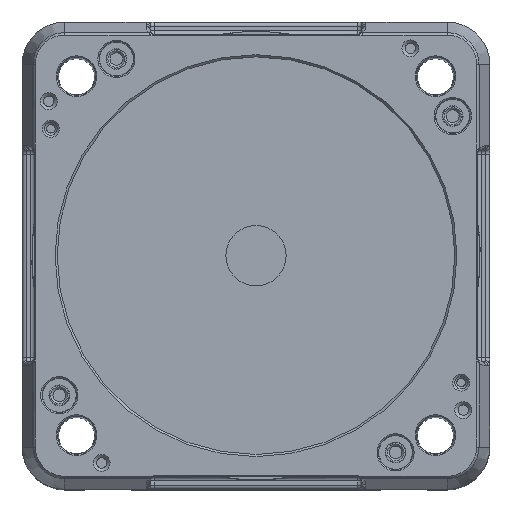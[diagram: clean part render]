
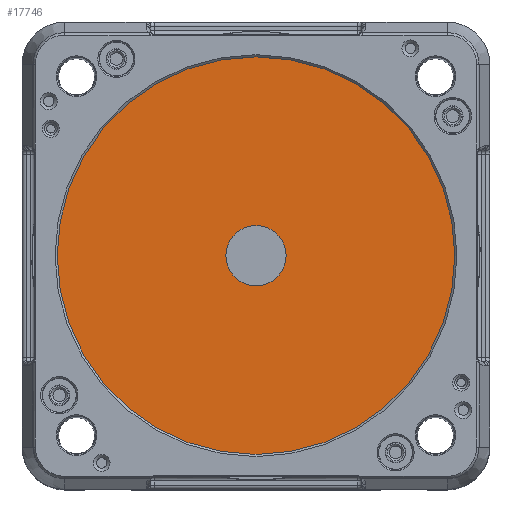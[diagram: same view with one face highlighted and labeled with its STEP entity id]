
A CAD part, top view. The second image highlights one B-rep face of the part: STEP entity #17746.
In plain terms, the highlighted planar face has unit normal (0, 0, 1) as drawn and (0, 0, -1) by its records, which use the part's own axes.
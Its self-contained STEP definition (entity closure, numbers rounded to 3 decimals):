
#12001=CARTESIAN_POINT('',(7.122,0.,-7.5));
#12002=VERTEX_POINT('',#12001);
#12003=CARTESIAN_POINT('',(0.,0.,-7.5));
#12004=DIRECTION('',(0.0,0.0,1.0));
#12005=DIRECTION('',(-1.0,0.0,0.0));
#12006=AXIS2_PLACEMENT_3D('',#12003,#12004,#12005);
#12007=CIRCLE('',#12006,7.122);
#12008=EDGE_CURVE('',#12002,#12002,#12007,.T.);
#12268=CARTESIAN_POINT('',(-47.0,0.,-7.5));
#12269=VERTEX_POINT('',#12268);
#12270=CARTESIAN_POINT('',(0.0,0.0,-7.5));
#12271=DIRECTION('',(0.0,0.0,-1.0));
#12272=DIRECTION('',(1.0,0.0,0.0));
#12273=AXIS2_PLACEMENT_3D('',#12270,#12271,#12272);
#12274=CIRCLE('',#12273,47.0);
#12275=EDGE_CURVE('',#12269,#12269,#12274,.T.);
#17735=CARTESIAN_POINT('',(0.0,0.0,-7.5));
#17736=DIRECTION('',(0.0,0.0,1.0));
#17737=DIRECTION('',(1.0,0.0,0.0));
#17738=AXIS2_PLACEMENT_3D('',#17735,#17736,#17737);
#17739=PLANE('',#17738);
#17740=ORIENTED_EDGE('',*,*,#12275,.T.);
#17741=EDGE_LOOP('',(#17740));
#17742=FACE_OUTER_BOUND('',#17741,.T.);
#17743=ORIENTED_EDGE('',*,*,#12008,.T.);
#17744=EDGE_LOOP('',(#17743));
#17745=FACE_BOUND('',#17744,.T.);
#17746=ADVANCED_FACE('',(#17742,#17745),#17739,.F.);
